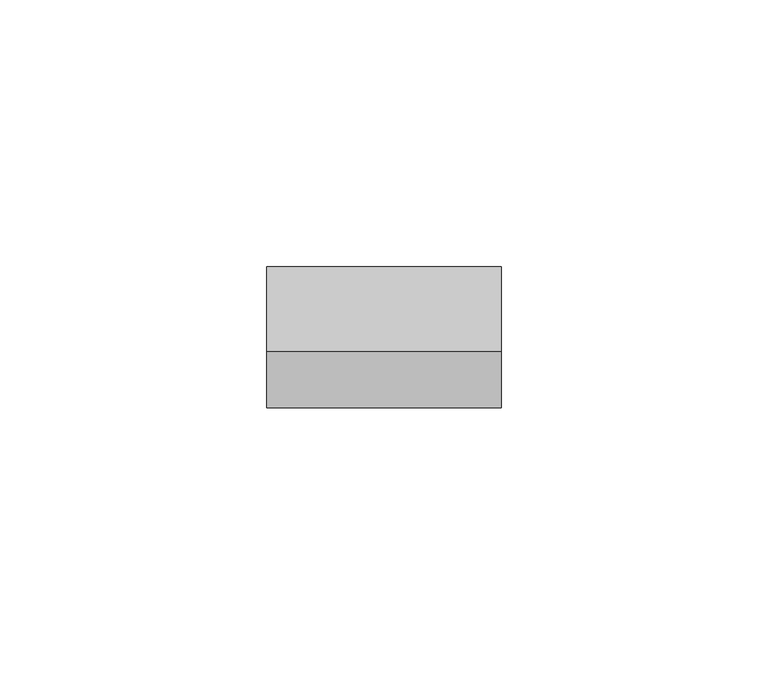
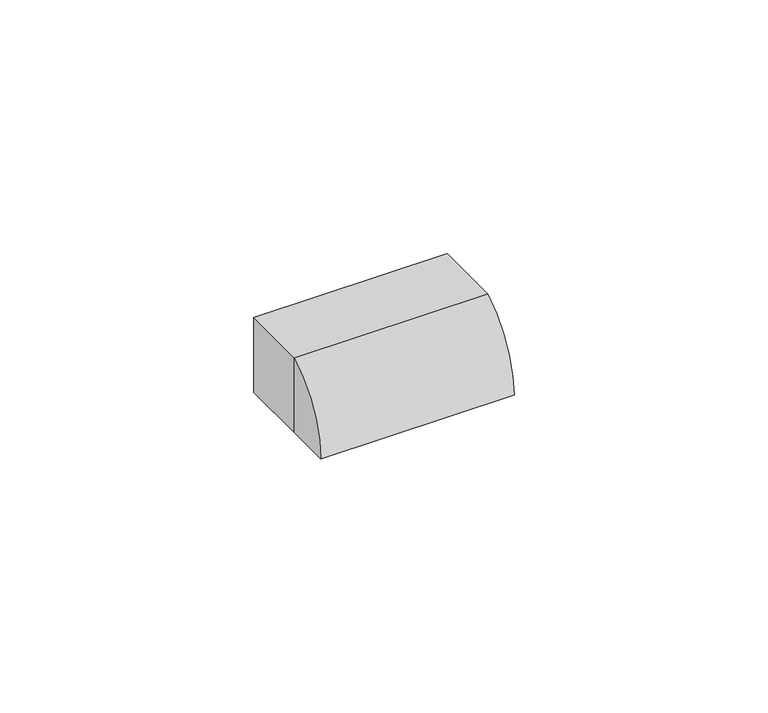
"""IFC4 building model written with IfcOpenShell, lengths in millimetres: proxy geometry, Заглушка_кабельной_трассы КМЗ : Заглушка кабельной трассы КМЗ 40х16."""

from ifc_helpers import new_model, si_unit, frame, origin, place, context, project, spatial, polyline, circle_curve, outline, extrude, source, transform, mapped, element, save
from ifc_brep_helpers import plane_surface, cylinder_surface, revolved_surface, advanced_brep


def generic_models_06d3f6ab(model_context):
    return source(origin(), model_context, "Body", "SolidModel", [
        advanced_brep(
        [(-8.0, -16.0, 0.0), (-8.0, -16.0, 18.0), (-8.0, -26.4694533, 0.0), (-52.0, -16.0, 0.0), (-52.0, -26.4694533, 0.0), (-52.0, -16.0, 18.0), (-10.0, -16.0, 0.0), (-10.0, -16.0, 16.0), (-50.0, -16.0, 16.0), (-50.0, -16.0, 0.0), (-50.0, -24.9302135, 0.0), (-10.0, -24.9302135, 0.0)],
        [
            (0, 1),
            (1, 2, circle_curve(frame((-8.0, -5.1340485, -0.3647388), z_axis=(1.0, 0.0, 0.0), x_axis=(0.0, 1.0, 0.0)), 21.3385223)),
            (2, 0),
            (3, 4),
            (4, 5, circle_curve(frame((-52.0, -5.1340485, -0.3647388), z_axis=(-1.0, 0.0, 0.0), x_axis=(0.0, 1.0, 0.0)), 21.3385223)),
            (5, 3),
            (0, 6),
            (6, 7),
            (7, 8),
            (8, 9),
            (9, 3),
            (5, 1),
            (4, 2),
            (9, 10),
            (10, 11),
            (11, 6),
            (11, 7, circle_curve(frame((-10.0, -4.8124322, -0.7363579), z_axis=(-1.0, 0.0, 0.0), x_axis=(0.0, 1.0, 0.0)), 20.131253)),
            (8, 10, circle_curve(frame((-50.0, -4.8124322, -0.7363579), z_axis=(1.0, 0.0, 0.0), x_axis=(0.0, 1.0, 0.0)), 20.131253)),
        ],
        [
            plane_surface(frame((-8.0, -16.0, 18.0), z_axis=(1.0, 0.0, 0.0), x_axis=(0.0, 0.0, 1.0))),
            plane_surface(frame((-52.0, -16.0, 18.0), z_axis=(-1.0, 0.0, 0.0), x_axis=(0.0, 0.0, -1.0))),
            plane_surface(frame((-8.0, -16.0, 0.0), z_axis=(0.0, 1.0, 0.0), x_axis=(-1.0, 0.0, 0.0))),
            cylinder_surface(frame((-52.0, -5.1340485, -0.3647388), z_axis=(1.0, 0.0, 0.0), x_axis=(0.0, 1.0, 0.0)), 21.3385223),
            plane_surface(frame((-8.0, -26.4694533, 0.0), z_axis=(0.0, 0.0, -1.0), x_axis=(-1.0, 0.0, 0.0))),
            plane_surface(frame((-10.0, -16.0, 16.0), z_axis=(-1.0, 0.0, 0.0), x_axis=(0.0, 0.0, 1.0))),
            plane_surface(frame((-50.0, -16.0, 16.0), z_axis=(1.0, 0.0, 0.0), x_axis=(0.0, 0.0, -1.0))),
            revolved_surface(polyline([(-10.0, 15.318820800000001, -0.7363579), (-50.0, 15.318820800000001, -0.7363579)]), (-50.0, -4.8124322, -0.7363579), (1.0, 0.0, 0.0)),
        ],
        [
            (0, [[1, 2, 3]]),
            (1, [[4, 5, 6]]),
            (2, [[-1, 7, 8, 9, 10, 11, -6, 12]]),
            (3, [[-2, -12, -5, 13]]),
            (4, [[-3, -13, -4, -11, 14, 15, 16, -7]]),
            (5, [[17, -8, -16]]),
            (6, [[18, -14, -10]]),
            (7, [[-17, -15, -18, -9]]),
        ],
    ),
        extrude(outline(polyline([(18.0, -8.0), (18.0, -52.0), (0.0, -52.0), (0.0, -50.0), (16.0, -50.0), (16.0, -10.0), (0.0, -10.0), (0.0, -8.0), (18.0, -8.0)])), frame((0.0, -16.0, 0.0), z_axis=(0.0, 1.0, 0.0), x_axis=(0.0, 0.0, 1.0)), (0.0, 0.0, 1.0), 16.0),
    ])


if __name__ == "__main__":
    model = new_model("IFC4")
    model_context = context("Model", 3, world=origin())
    ifc_project = project(units=[si_unit("LENGTHUNIT", "METRE", prefix="MILLI")], contexts=[model_context])
    site = spatial("IfcSite", under=ifc_project)
    building = spatial("IfcBuilding", under=site)
    placement = place(None, origin())
    generic_models_shape = generic_models_06d3f6ab(model_context)
    element("IfcBuildingElementProxy", 1, Name="Заглушка_кабельной_трассы КМЗ : Заглушка кабельной трассы КМЗ 40х16", ObjectType="Заглушка_кабельной_трассы КМЗ : Заглушка кабельной трассы КМЗ 40х16", at=placement, inside=building, context=model_context, shape_type="MappedRepresentation", body=[
        mapped(generic_models_shape, transform((0.0, 0.0, 0.0), x_axis=(1.0, 0.0, 0.0), y_axis=(0.0, 1.0, 0.0), z_axis=(0.0, 0.0, 1.0))),
    ])
    save(model, "model.ifc")
